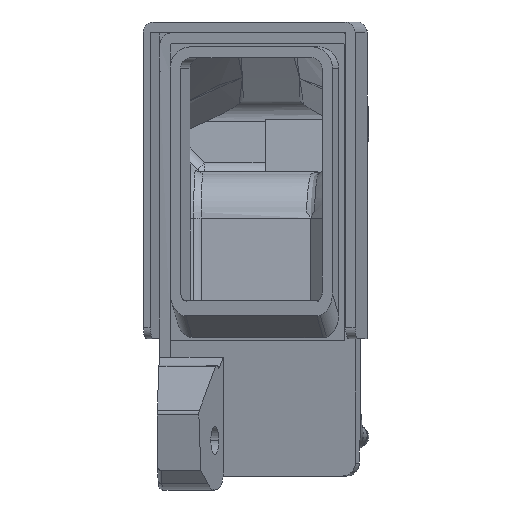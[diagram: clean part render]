
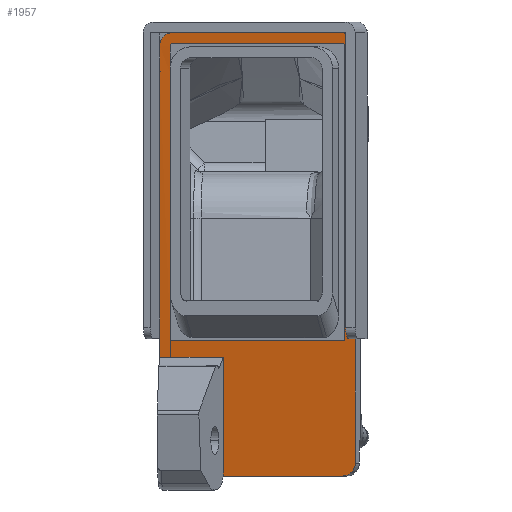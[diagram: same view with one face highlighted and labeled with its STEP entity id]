
A CAD part, left-side view. The second image highlights one B-rep face of the part: STEP entity #1957.
In plain terms, the highlighted planar face has unit normal (-0.957, 0.29, 0).
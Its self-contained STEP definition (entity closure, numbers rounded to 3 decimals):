
#12 = CARTESIAN_POINT ( 'NONE',  ( -16.495, 9.829, 41. ) ) ;
#359 = DIRECTION ( 'NONE',  ( -0.29, -0.957, 0. ) ) ;
#364 = LINE ( 'NONE', #16053, #15955 ) ;
#443 = CARTESIAN_POINT ( 'NONE',  ( -18.281, 3.945, 11. ) ) ;
#463 = EDGE_CURVE ( 'NONE', #15053, #951, #364, .T. ) ;
#552 = VERTEX_POINT ( 'NONE', #7045 ) ;
#571 = CARTESIAN_POINT ( 'NONE',  ( -21.637, -7.107, 41. ) ) ;
#733 = CIRCLE ( 'NONE', #10302, 1.2 ) ;
#881 = VERTEX_POINT ( 'NONE', #8377 ) ;
#951 = VERTEX_POINT ( 'NONE', #4367 ) ;
#1246 = VERTEX_POINT ( 'NONE', #12301 ) ;
#1304 = VERTEX_POINT ( 'NONE', #12552 ) ;
#1349 = VERTEX_POINT ( 'NONE', #11814 ) ;
#1378 = DIRECTION ( 'NONE',  ( -0.29, -0.957, 0. ) ) ;
#1394 = DIRECTION ( 'NONE',  ( -0.29, -0.957, 0. ) ) ;
#1439 = ORIENTED_EDGE ( 'NONE', *, *, #1850, .T. ) ;
#1577 = ORIENTED_EDGE ( 'NONE', *, *, #7387, .T. ) ;
#1770 = AXIS2_PLACEMENT_3D ( 'NONE', #10891, #12103, #359 ) ;
#1807 = EDGE_CURVE ( 'NONE', #2849, #1881, #9448, .T. ) ;
#1850 = EDGE_CURVE ( 'NONE', #12540, #12869, #2509, .T. ) ;
#1881 = VERTEX_POINT ( 'NONE', #4234 ) ;
#1957 = ADVANCED_FACE ( 'NONE', ( #6956, #11378 ), #7125, .T. ) ;
#2111 = CARTESIAN_POINT ( 'NONE',  ( -16.495, 9.829, 39.8 ) ) ;
#2208 = LINE ( 'NONE', #16445, #6803 ) ;
#2321 = DIRECTION ( 'NONE',  ( 0., 0., 1. ) ) ;
#2353 = VERTEX_POINT ( 'NONE', #571 ) ;
#2495 = LINE ( 'NONE', #15600, #3049 ) ;
#2509 = LINE ( 'NONE', #12, #16000 ) ;
#2514 = VERTEX_POINT ( 'NONE', #4939 ) ;
#2847 = CARTESIAN_POINT ( 'NONE',  ( -21.985, -8.256, 0. ) ) ;
#2849 = VERTEX_POINT ( 'NONE', #6984 ) ;
#3049 = VECTOR ( 'NONE', #2321, 1000. ) ;
#3580 = DIRECTION ( 'NONE',  ( -0.29, -0.957, 0. ) ) ;
#3642 = ORIENTED_EDGE ( 'NONE', *, *, #9697, .F. ) ;
#4136 = ORIENTED_EDGE ( 'NONE', *, *, #1807, .T. ) ;
#4140 = CARTESIAN_POINT ( 'NONE',  ( -16.844, 8.681, 39.8 ) ) ;
#4234 = CARTESIAN_POINT ( 'NONE',  ( -21.637, -7.107, 0. ) ) ;
#4308 = ORIENTED_EDGE ( 'NONE', *, *, #11784, .T. ) ;
#4367 = CARTESIAN_POINT ( 'NONE',  ( -16.761, 8.845, 37.223 ) ) ;
#4411 = EDGE_CURVE ( 'NONE', #1304, #2353, #16029, .T. ) ;
#4547 = DIRECTION ( 'NONE',  ( -0.29, -0.957, 0. ) ) ;
#4848 = CARTESIAN_POINT ( 'NONE',  ( -21.637, -7.107, 40. ) ) ;
#4861 = EDGE_CURVE ( 'NONE', #2514, #15053, #8280, .T. ) ;
#4869 = CARTESIAN_POINT ( 'NONE',  ( -16.791, 8.854, 12.5 ) ) ;
#4939 = CARTESIAN_POINT ( 'NONE',  ( -16.844, 8.681, 40. ) ) ;
#5046 = EDGE_CURVE ( 'NONE', #1349, #11175, #10389, .T. ) ;
#5235 = CIRCLE ( 'NONE', #13432, 1.2 ) ;
#5250 = CARTESIAN_POINT ( 'NONE',  ( -18.281, 3.945, 11. ) ) ;
#5266 = DIRECTION ( 'NONE',  ( 0., 0., 1. ) ) ;
#5325 = CARTESIAN_POINT ( 'NONE',  ( -16.796, 8.838, 0. ) ) ;
#5401 = EDGE_CURVE ( 'NONE', #2514, #15868, #13200, .T. ) ;
#5415 = DIRECTION ( 'NONE',  ( -0.29, -0.957, 0. ) ) ;
#5476 = AXIS2_PLACEMENT_3D ( 'NONE', #7544, #11649, #10116 ) ;
#5784 = ORIENTED_EDGE ( 'NONE', *, *, #463, .F. ) ;
#5786 = VECTOR ( 'NONE', #12882, 1000. ) ;
#5836 = CARTESIAN_POINT ( 'NONE',  ( -21.985, -8.256, 39.8 ) ) ;
#6086 = AXIS2_PLACEMENT_3D ( 'NONE', #12467, #12390, #10924 ) ;
#6154 = DIRECTION ( 'NONE',  ( 0.29, 0.957, 0. ) ) ;
#6200 = EDGE_CURVE ( 'NONE', #881, #11700, #2208, .T. ) ;
#6304 = AXIS2_PLACEMENT_3D ( 'NONE', #12114, #15972, #11933 ) ;
#6340 = VECTOR ( 'NONE', #1378, 1000. ) ;
#6614 = VECTOR ( 'NONE', #13809, 1000. ) ;
#6798 = DIRECTION ( 'NONE',  ( 0., 0., -1. ) ) ;
#6803 = VECTOR ( 'NONE', #3580, 1000. ) ;
#6858 = CARTESIAN_POINT ( 'NONE',  ( -21.985, -8.256, 41. ) ) ;
#6956 = FACE_OUTER_BOUND ( 'NONE', #13678, .T. ) ;
#6984 = CARTESIAN_POINT ( 'NONE',  ( -18.281, 3.945, 0. ) ) ;
#7045 = CARTESIAN_POINT ( 'NONE',  ( -21.695, -7.299, 12.5 ) ) ;
#7125 = PLANE ( 'NONE',  #1770 ) ;
#7262 = EDGE_LOOP ( 'NONE', ( #3642, #16937, #14358, #5784, #15825, #14928, #14783 ) ) ;
#7373 = CIRCLE ( 'NONE', #5476, 0.2 ) ;
#7387 = EDGE_CURVE ( 'NONE', #11175, #2353, #733, .T. ) ;
#7544 = CARTESIAN_POINT ( 'NONE',  ( -21.637, -7.107, 39.8 ) ) ;
#7689 = LINE ( 'NONE', #4869, #15634 ) ;
#7838 = ORIENTED_EDGE ( 'NONE', *, *, #10767, .T. ) ;
#8280 = CIRCLE ( 'NONE', #6086, 0.2 ) ;
#8377 = CARTESIAN_POINT ( 'NONE',  ( -16.495, 9.829, 11. ) ) ;
#8388 = EDGE_CURVE ( 'NONE', #2849, #11700, #12186, .T. ) ;
#9154 = CARTESIAN_POINT ( 'NONE',  ( -21.637, -7.107, 39.8 ) ) ;
#9323 = CARTESIAN_POINT ( 'NONE',  ( -16.785, 8.872, 39.8 ) ) ;
#9363 = EDGE_CURVE ( 'NONE', #881, #12869, #10313, .T. ) ;
#9386 = CARTESIAN_POINT ( 'NONE',  ( -16.495, 9.829, 37.161 ) ) ;
#9448 = LINE ( 'NONE', #2847, #13802 ) ;
#9528 = DIRECTION ( 'NONE',  ( -0.957, 0.29, 0. ) ) ;
#9697 = EDGE_CURVE ( 'NONE', #552, #1246, #2495, .T. ) ;
#10004 = EDGE_CURVE ( 'NONE', #1246, #15868, #7373, .T. ) ;
#10116 = DIRECTION ( 'NONE',  ( -0.29, -0.957, 0. ) ) ;
#10198 = EDGE_CURVE ( 'NONE', #10501, #951, #11912, .T. ) ;
#10302 = AXIS2_PLACEMENT_3D ( 'NONE', #9154, #10520, #15758 ) ;
#10313 = LINE ( 'NONE', #12709, #5786 ) ;
#10389 = LINE ( 'NONE', #14343, #15940 ) ;
#10501 = VERTEX_POINT ( 'NONE', #13675 ) ;
#10520 = DIRECTION ( 'NONE',  ( -0.957, 0.29, 0. ) ) ;
#10541 = DIRECTION ( 'NONE',  ( 0., 0., 1. ) ) ;
#10767 = EDGE_CURVE ( 'NONE', #1881, #1349, #14231, .T. ) ;
#10891 = CARTESIAN_POINT ( 'NONE',  ( -21.985, -8.256, 0. ) ) ;
#10924 = DIRECTION ( 'NONE',  ( -0.29, -0.957, 0. ) ) ;
#11175 = VERTEX_POINT ( 'NONE', #5836 ) ;
#11378 = FACE_BOUND ( 'NONE', #7262, .T. ) ;
#11434 = ORIENTED_EDGE ( 'NONE', *, *, #8388, .F. ) ;
#11649 = DIRECTION ( 'NONE',  ( -0.957, 0.29, 0. ) ) ;
#11700 = VERTEX_POINT ( 'NONE', #5250 ) ;
#11784 = EDGE_CURVE ( 'NONE', #1304, #12540, #5235, .T. ) ;
#11814 = CARTESIAN_POINT ( 'NONE',  ( -21.985, -8.256, 1.2 ) ) ;
#11912 = LINE ( 'NONE', #5325, #13394 ) ;
#11933 = DIRECTION ( 'NONE',  ( -0.29, -0.957, 0. ) ) ;
#12016 = DIRECTION ( 'NONE',  ( 0., 0., -1. ) ) ;
#12103 = DIRECTION ( 'NONE',  ( -0.957, 0.29, 0. ) ) ;
#12114 = CARTESIAN_POINT ( 'NONE',  ( -21.637, -7.107, 1.2 ) ) ;
#12186 = LINE ( 'NONE', #443, #6614 ) ;
#12230 = VECTOR ( 'NONE', #4547, 1000. ) ;
#12257 = EDGE_CURVE ( 'NONE', #552, #10501, #7689, .T. ) ;
#12301 = CARTESIAN_POINT ( 'NONE',  ( -21.695, -7.299, 39.8 ) ) ;
#12390 = DIRECTION ( 'NONE',  ( -0.957, 0.29, 0. ) ) ;
#12467 = CARTESIAN_POINT ( 'NONE',  ( -16.844, 8.681, 39.8 ) ) ;
#12540 = VERTEX_POINT ( 'NONE', #2111 ) ;
#12552 = CARTESIAN_POINT ( 'NONE',  ( -16.844, 8.681, 41. ) ) ;
#12709 = CARTESIAN_POINT ( 'NONE',  ( -16.495, 9.829, 0. ) ) ;
#12869 = VERTEX_POINT ( 'NONE', #9386 ) ;
#12882 = DIRECTION ( 'NONE',  ( 0., 0., 1. ) ) ;
#13200 = LINE ( 'NONE', #14321, #6340 ) ;
#13394 = VECTOR ( 'NONE', #10541, 1000. ) ;
#13432 = AXIS2_PLACEMENT_3D ( 'NONE', #4140, #9528, #5415 ) ;
#13675 = CARTESIAN_POINT ( 'NONE',  ( -16.796, 8.838, 12.5 ) ) ;
#13678 = EDGE_LOOP ( 'NONE', ( #11434, #4136, #7838, #15034, #1577, #14183, #4308, #1439, #14346, #14602 ) ) ;
#13802 = VECTOR ( 'NONE', #1394, 1000. ) ;
#13809 = DIRECTION ( 'NONE',  ( 0., 0., 1. ) ) ;
#14183 = ORIENTED_EDGE ( 'NONE', *, *, #4411, .F. ) ;
#14231 = CIRCLE ( 'NONE', #6304, 1.2 ) ;
#14321 = CARTESIAN_POINT ( 'NONE',  ( -17.835, 5.415, 40. ) ) ;
#14343 = CARTESIAN_POINT ( 'NONE',  ( -21.985, -8.256, 0. ) ) ;
#14346 = ORIENTED_EDGE ( 'NONE', *, *, #9363, .F. ) ;
#14358 = ORIENTED_EDGE ( 'NONE', *, *, #10198, .T. ) ;
#14602 = ORIENTED_EDGE ( 'NONE', *, *, #6200, .T. ) ;
#14783 = ORIENTED_EDGE ( 'NONE', *, *, #10004, .F. ) ;
#14928 = ORIENTED_EDGE ( 'NONE', *, *, #5401, .T. ) ;
#15034 = ORIENTED_EDGE ( 'NONE', *, *, #5046, .T. ) ;
#15053 = VERTEX_POINT ( 'NONE', #9323 ) ;
#15600 = CARTESIAN_POINT ( 'NONE',  ( -21.695, -7.299, 0. ) ) ;
#15634 = VECTOR ( 'NONE', #6154, 1000. ) ;
#15758 = DIRECTION ( 'NONE',  ( -0.29, -0.957, 0. ) ) ;
#15825 = ORIENTED_EDGE ( 'NONE', *, *, #4861, .F. ) ;
#15868 = VERTEX_POINT ( 'NONE', #4848 ) ;
#15940 = VECTOR ( 'NONE', #5266, 1000. ) ;
#15955 = VECTOR ( 'NONE', #6798, 1000. ) ;
#15972 = DIRECTION ( 'NONE',  ( -0.957, 0.29, 0. ) ) ;
#16000 = VECTOR ( 'NONE', #12016, 1000. ) ;
#16029 = LINE ( 'NONE', #6858, #12230 ) ;
#16053 = CARTESIAN_POINT ( 'NONE',  ( -16.785, 8.872, 0. ) ) ;
#16445 = CARTESIAN_POINT ( 'NONE',  ( -12.828, 21.907, 11. ) ) ;
#16937 = ORIENTED_EDGE ( 'NONE', *, *, #12257, .T. ) ;
